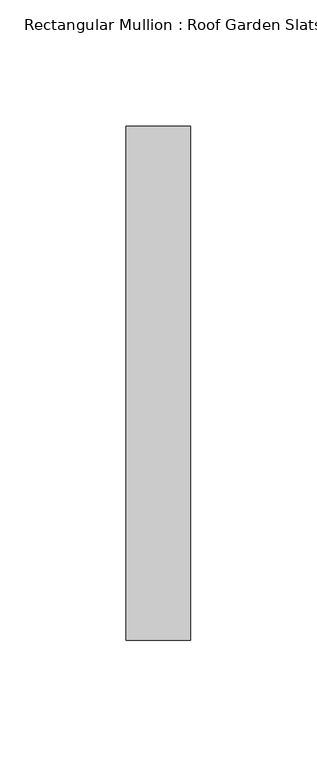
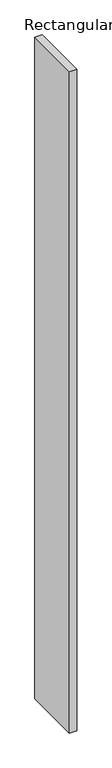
"""IFC4 building model written with IfcOpenShell, lengths in millimetres: member geometry, Rectangular Mullion : Roof Garden Slats."""

from ifc_helpers import new_model, si_unit, frame, origin, place, context, project, spatial, polyline, outline, extrude, source, transform, mapped, element, save


def rectangular_mullion_roof_garden_slats_1d3b1987(model_context):
    return source(origin(), model_context, "Body", "SweptSolid", [
        extrude(outline(polyline([(12.7, 139.7), (12.7, -63.5), (-12.7, -63.5), (-12.7, 139.7), (12.7, 139.7)])), frame((0.0, 0.0, -2383.3977927), z_axis=(0.0, 0.0, 1.0), x_axis=(1.0, 0.0, 0.0)), (0.0, 0.0, 1.0), 2383.3977927),
    ])


if __name__ == "__main__":
    model = new_model("IFC4")
    model_context = context("Model", 3, world=origin())
    ifc_project = project(units=[si_unit("LENGTHUNIT", "METRE", prefix="MILLI")], contexts=[model_context])
    site = spatial("IfcSite", under=ifc_project)
    building = spatial("IfcBuilding", under=site)
    placement = place(None, origin())
    rectangular_mullion_roof_garden_slats_shape = rectangular_mullion_roof_garden_slats_1d3b1987(model_context)
    element("IfcMember", 1, ObjectType="Rectangular Mullion : Roof Garden Slats", at=placement, inside=building, context=model_context, shape_type="MappedRepresentation", body=[
        mapped(rectangular_mullion_roof_garden_slats_shape, transform((0.0, 0.0, 0.0), x_axis=(1.0, 0.0, 0.0), y_axis=(0.0, 1.0, 0.0), z_axis=(0.0, 0.0, 1.0))),
    ])
    save(model, "model.ifc")
